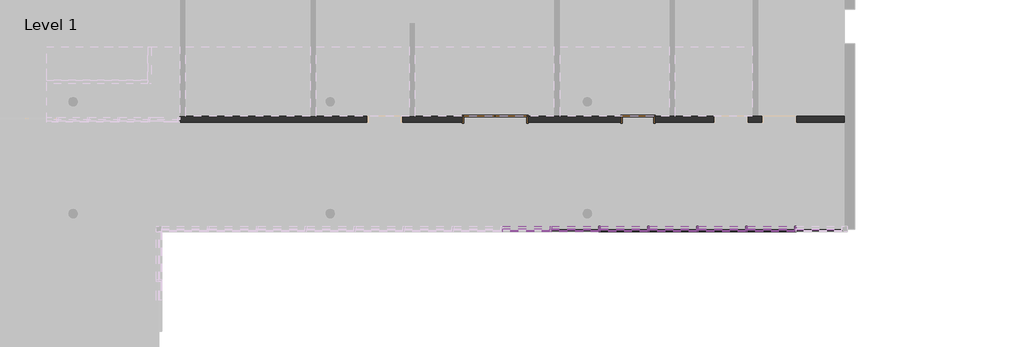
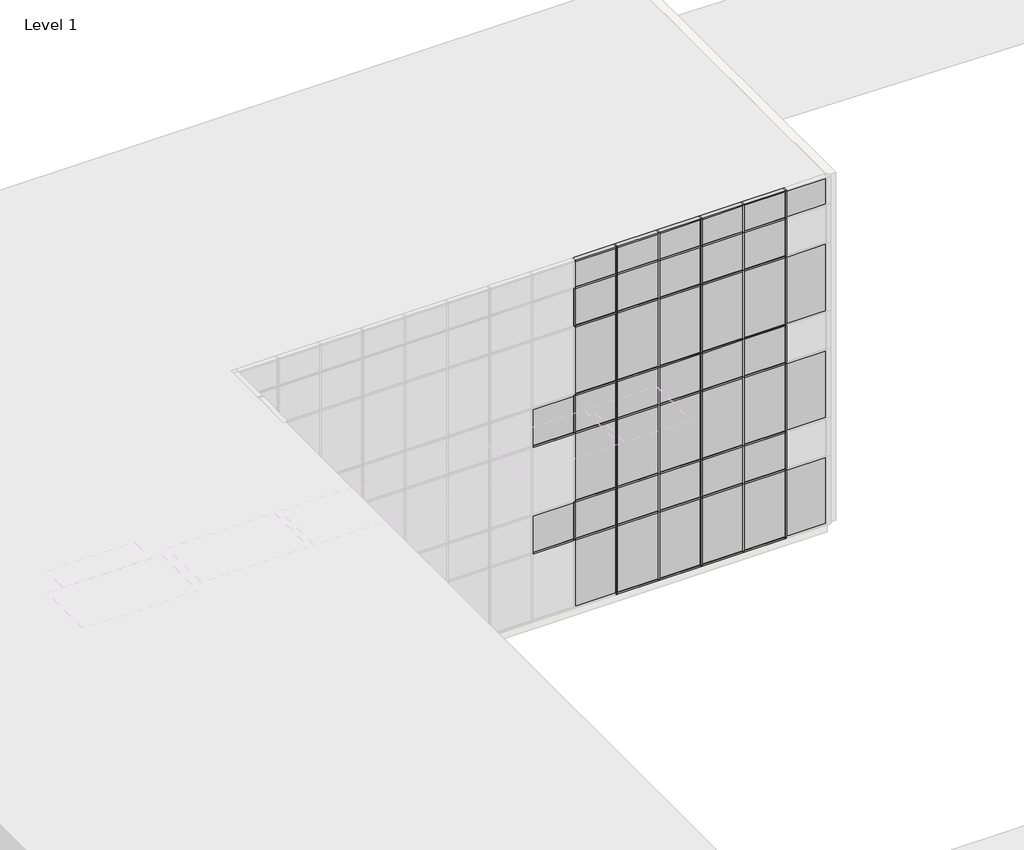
# One storey, part 16 of 27: 79 members, 41 plates, 2 doors, 1 wall.
"""IFC4 building model written with IfcOpenShell, lengths in millimetres."""

from ifc_helpers import new_model, si_unit, origin, place, context, project, spatial, faceted_brep, transform, mapped, element, save
from components import door_0915mm_x_2134mm_3fa07aa3, door_2_x_0915mm_x_2134mm_c74f849d, rectangular_mullion_50mm_x_150mm_5a36e067, rectangular_mullion_50mm_x_150mm_73e7bd4c, rectangular_mullion_50mm_x_150mm_bbc1c4ea, rectangular_mullion_50mm_x_150mm_36202a7c, rectangular_mullion_50mm_x_150mm_84717ec5, system_panel_glazed_6032f2be, system_panel_glazed_0db3b356, system_panel_glazed_cd6fe77c, system_panel_glazed_231014a1, system_panel_solid_c5c66014, system_panel_solid_87c6c2f1, system_panel_solid_e0f9033a

model = new_model("IFC4")

# Units and contexts
model_context = context("Model", 3, world=origin())
ifc_project = project(units=[si_unit("LENGTHUNIT", "METRE", prefix="MILLI")], contexts=[model_context])

# Site, building, storey
site = spatial("IfcSite", under=ifc_project)
building = spatial("IfcBuilding", under=site)
storey = spatial("IfcBuildingStorey", under=building, Name="Level 1", Elevation=0.0)

# Doors
placement = place(None, origin())
door_0915mm_x_2134mm_shape = door_0915mm_x_2134mm_3fa07aa3(model_context)
element("IfcDoor", 1, ObjectType="m-doors-hm-f1-a : 0915mm x 2134mm", at=placement, inside=storey, context=model_context, shape_type="MappedRepresentation", body=[
    mapped(door_0915mm_x_2134mm_shape, transform((21398.8999097, 22787.5799804, 0.0), x_axis=(-1.0, 0.0, 0.0), y_axis=(0.0, -1.0, 0.0), z_axis=(0.0, 0.0, 1.0))),
])
door_2_x_0915mm_x_2134mm_shape = door_2_x_0915mm_x_2134mm_c74f849d(model_context)
element("IfcDoor", 2, ObjectType="m-doors-hm-f2-a : 2 x 0915mm x 2134mm", at=placement, inside=storey, context=model_context, shape_type="MappedRepresentation", body=[
    mapped(door_2_x_0915mm_x_2134mm_shape, transform((17239.5010724, 22787.5799804, 0.0), x_axis=(1.0, 0.0, 0.0), y_axis=(0.0, 1.0, 0.0), z_axis=(0.0, 0.0, 1.0))),
])

# Members
rectangular_mullion_50mm_x_150mm_shape = rectangular_mullion_50mm_x_150mm_5a36e067(model_context)
element("IfcMember", 3, ObjectType="Rectangular Mullion : 50mm x 150mm", at=placement, inside=storey, context=model_context, shape_type="MappedRepresentation", body=[
    mapped(rectangular_mullion_50mm_x_150mm_shape, transform((20256.7574677, 19414.8392059, 12400.0), x_axis=(0.0, 0.0, 1.0), y_axis=(0.0, -1.0, 0.0), z_axis=(1.0, 0.0, 0.0))),
])
element("IfcMember", 4, ObjectType="Rectangular Mullion : 50mm x 150mm", at=placement, inside=storey, context=model_context, shape_type="MappedRepresentation", body=[
    mapped(rectangular_mullion_50mm_x_150mm_shape, transform((21682.785956, 19414.8392059, 12400.0), x_axis=(0.0, 0.0, 1.0), y_axis=(0.0, -1.0, 0.0), z_axis=(1.0, 0.0, 0.0))),
])
element("IfcMember", 5, ObjectType="Rectangular Mullion : 50mm x 150mm", at=placement, inside=storey, context=model_context, shape_type="MappedRepresentation", body=[
    mapped(rectangular_mullion_50mm_x_150mm_shape, transform((23108.8144443, 19414.8392059, 12400.0), x_axis=(0.0, 0.0, 1.0), y_axis=(0.0, -1.0, 0.0), z_axis=(1.0, 0.0, 0.0))),
])
element("IfcMember", 6, ObjectType="Rectangular Mullion : 50mm x 150mm", at=placement, inside=storey, context=model_context, shape_type="MappedRepresentation", body=[
    mapped(rectangular_mullion_50mm_x_150mm_shape, transform((24534.8429327, 19414.8392059, 12400.0), x_axis=(0.0, 0.0, 1.0), y_axis=(0.0, -1.0, 0.0), z_axis=(1.0, 0.0, 0.0))),
])
element("IfcMember", 7, ObjectType="Rectangular Mullion : 50mm x 150mm", at=placement, inside=storey, context=model_context, shape_type="MappedRepresentation", body=[
    mapped(rectangular_mullion_50mm_x_150mm_shape, transform((25960.871421, 19414.8392059, 12400.0), x_axis=(0.0, 0.0, 1.0), y_axis=(0.0, -1.0, 0.0), z_axis=(1.0, 0.0, 0.0))),
])
element("IfcMember", 8, ObjectType="Rectangular Mullion : 50mm x 150mm", at=placement, inside=storey, context=model_context, shape_type="MappedRepresentation", body=[
    mapped(rectangular_mullion_50mm_x_150mm_shape, transform((20306.7574677, 19414.8392059, 0.0), x_axis=(0.0, 0.0, -1.0), y_axis=(0.0, -1.0, 0.0), z_axis=(-1.0, 0.0, 0.0))),
])
element("IfcMember", 9, ObjectType="Rectangular Mullion : 50mm x 150mm", at=placement, inside=storey, context=model_context, shape_type="MappedRepresentation", body=[
    mapped(rectangular_mullion_50mm_x_150mm_shape, transform((21732.785956, 19414.8392059, 0.0), x_axis=(0.0, 0.0, -1.0), y_axis=(0.0, -1.0, 0.0), z_axis=(-1.0, 0.0, 0.0))),
])
element("IfcMember", 10, ObjectType="Rectangular Mullion : 50mm x 150mm", at=placement, inside=storey, context=model_context, shape_type="MappedRepresentation", body=[
    mapped(rectangular_mullion_50mm_x_150mm_shape, transform((23158.8144443, 19414.8392059, 0.0), x_axis=(0.0, 0.0, -1.0), y_axis=(0.0, -1.0, 0.0), z_axis=(-1.0, 0.0, 0.0))),
])
element("IfcMember", 11, ObjectType="Rectangular Mullion : 50mm x 150mm", at=placement, inside=storey, context=model_context, shape_type="MappedRepresentation", body=[
    mapped(rectangular_mullion_50mm_x_150mm_shape, transform((24584.8429327, 19414.8392059, 0.0), x_axis=(0.0, 0.0, -1.0), y_axis=(0.0, -1.0, 0.0), z_axis=(-1.0, 0.0, 0.0))),
])
rectangular_mullion_50mm_x_150mm_2_shape = rectangular_mullion_50mm_x_150mm_73e7bd4c(model_context)
element("IfcMember", 12, ObjectType="Rectangular Mullion : 50mm x 150mm", at=placement, inside=storey, context=model_context, shape_type="MappedRepresentation", body=[
    mapped(rectangular_mullion_50mm_x_150mm_2_shape, transform((20256.7574677, 19414.8392059, 3800.0), x_axis=(0.0, 0.0, 1.0), y_axis=(0.0, -1.0, 0.0), z_axis=(1.0, 0.0, 0.0))),
])
element("IfcMember", 13, ObjectType="Rectangular Mullion : 50mm x 150mm", at=placement, inside=storey, context=model_context, shape_type="MappedRepresentation", body=[
    mapped(rectangular_mullion_50mm_x_150mm_2_shape, transform((21682.785956, 19414.8392059, 3800.0), x_axis=(0.0, 0.0, 1.0), y_axis=(0.0, -1.0, 0.0), z_axis=(1.0, 0.0, 0.0))),
])
element("IfcMember", 14, ObjectType="Rectangular Mullion : 50mm x 150mm", at=placement, inside=storey, context=model_context, shape_type="MappedRepresentation", body=[
    mapped(rectangular_mullion_50mm_x_150mm_2_shape, transform((23108.8144443, 19414.8392059, 3800.0), x_axis=(0.0, 0.0, 1.0), y_axis=(0.0, -1.0, 0.0), z_axis=(1.0, 0.0, 0.0))),
])
element("IfcMember", 15, ObjectType="Rectangular Mullion : 50mm x 150mm", at=placement, inside=storey, context=model_context, shape_type="MappedRepresentation", body=[
    mapped(rectangular_mullion_50mm_x_150mm_2_shape, transform((24534.8429327, 19414.8392059, 3800.0), x_axis=(0.0, 0.0, 1.0), y_axis=(0.0, -1.0, 0.0), z_axis=(1.0, 0.0, 0.0))),
])
element("IfcMember", 16, ObjectType="Rectangular Mullion : 50mm x 150mm", at=placement, inside=storey, context=model_context, shape_type="MappedRepresentation", body=[
    mapped(rectangular_mullion_50mm_x_150mm_2_shape, transform((25960.871421, 19414.8392059, 3800.0), x_axis=(0.0, 0.0, 1.0), y_axis=(0.0, -1.0, 0.0), z_axis=(1.0, 0.0, 0.0))),
])
element("IfcMember", 17, ObjectType="Rectangular Mullion : 50mm x 150mm", at=placement, inside=storey, context=model_context, shape_type="MappedRepresentation", body=[
    mapped(rectangular_mullion_50mm_x_150mm_2_shape, transform((20256.7574677, 19414.8392059, 7600.0), x_axis=(0.0, 0.0, 1.0), y_axis=(0.0, -1.0, 0.0), z_axis=(1.0, 0.0, 0.0))),
])
element("IfcMember", 18, ObjectType="Rectangular Mullion : 50mm x 150mm", at=placement, inside=storey, context=model_context, shape_type="MappedRepresentation", body=[
    mapped(rectangular_mullion_50mm_x_150mm_2_shape, transform((21682.785956, 19414.8392059, 7600.0), x_axis=(0.0, 0.0, 1.0), y_axis=(0.0, -1.0, 0.0), z_axis=(1.0, 0.0, 0.0))),
])
element("IfcMember", 19, ObjectType="Rectangular Mullion : 50mm x 150mm", at=placement, inside=storey, context=model_context, shape_type="MappedRepresentation", body=[
    mapped(rectangular_mullion_50mm_x_150mm_2_shape, transform((23108.8144443, 19414.8392059, 7600.0), x_axis=(0.0, 0.0, 1.0), y_axis=(0.0, -1.0, 0.0), z_axis=(1.0, 0.0, 0.0))),
])
element("IfcMember", 20, ObjectType="Rectangular Mullion : 50mm x 150mm", at=placement, inside=storey, context=model_context, shape_type="MappedRepresentation", body=[
    mapped(rectangular_mullion_50mm_x_150mm_2_shape, transform((24534.8429327, 19414.8392059, 7600.0), x_axis=(0.0, 0.0, 1.0), y_axis=(0.0, -1.0, 0.0), z_axis=(1.0, 0.0, 0.0))),
])
element("IfcMember", 21, ObjectType="Rectangular Mullion : 50mm x 150mm", at=placement, inside=storey, context=model_context, shape_type="MappedRepresentation", body=[
    mapped(rectangular_mullion_50mm_x_150mm_2_shape, transform((25960.871421, 19414.8392059, 7600.0), x_axis=(0.0, 0.0, 1.0), y_axis=(0.0, -1.0, 0.0), z_axis=(1.0, 0.0, 0.0))),
])
element("IfcMember", 22, ObjectType="Rectangular Mullion : 50mm x 150mm", at=placement, inside=storey, context=model_context, shape_type="MappedRepresentation", body=[
    mapped(rectangular_mullion_50mm_x_150mm_2_shape, transform((20256.7574677, 19414.8392059, 11400.0), x_axis=(0.0, 0.0, 1.0), y_axis=(0.0, -1.0, 0.0), z_axis=(1.0, 0.0, 0.0))),
])
element("IfcMember", 23, ObjectType="Rectangular Mullion : 50mm x 150mm", at=placement, inside=storey, context=model_context, shape_type="MappedRepresentation", body=[
    mapped(rectangular_mullion_50mm_x_150mm_2_shape, transform((21682.785956, 19414.8392059, 11400.0), x_axis=(0.0, 0.0, 1.0), y_axis=(0.0, -1.0, 0.0), z_axis=(1.0, 0.0, 0.0))),
])
element("IfcMember", 24, ObjectType="Rectangular Mullion : 50mm x 150mm", at=placement, inside=storey, context=model_context, shape_type="MappedRepresentation", body=[
    mapped(rectangular_mullion_50mm_x_150mm_2_shape, transform((23108.8144443, 19414.8392059, 11400.0), x_axis=(0.0, 0.0, 1.0), y_axis=(0.0, -1.0, 0.0), z_axis=(1.0, 0.0, 0.0))),
])
element("IfcMember", 25, ObjectType="Rectangular Mullion : 50mm x 150mm", at=placement, inside=storey, context=model_context, shape_type="MappedRepresentation", body=[
    mapped(rectangular_mullion_50mm_x_150mm_2_shape, transform((24534.8429327, 19414.8392059, 11400.0), x_axis=(0.0, 0.0, 1.0), y_axis=(0.0, -1.0, 0.0), z_axis=(1.0, 0.0, 0.0))),
])
element("IfcMember", 26, ObjectType="Rectangular Mullion : 50mm x 150mm", at=placement, inside=storey, context=model_context, shape_type="MappedRepresentation", body=[
    mapped(rectangular_mullion_50mm_x_150mm_2_shape, transform((25960.871421, 19414.8392059, 11400.0), x_axis=(0.0, 0.0, 1.0), y_axis=(0.0, -1.0, 0.0), z_axis=(1.0, 0.0, 0.0))),
])
element("IfcMember", 27, ObjectType="Rectangular Mullion : 50mm x 150mm", at=placement, inside=storey, context=model_context, shape_type="MappedRepresentation", body=[
    mapped(rectangular_mullion_50mm_x_150mm_2_shape, transform((20256.7574677, 19414.8392059, 10040.0), x_axis=(0.0, 0.0, 1.0), y_axis=(0.0, -1.0, 0.0), z_axis=(1.0, 0.0, 0.0))),
])
element("IfcMember", 28, ObjectType="Rectangular Mullion : 50mm x 150mm", at=placement, inside=storey, context=model_context, shape_type="MappedRepresentation", body=[
    mapped(rectangular_mullion_50mm_x_150mm_2_shape, transform((21682.785956, 19414.8392059, 10040.0), x_axis=(0.0, 0.0, 1.0), y_axis=(0.0, -1.0, 0.0), z_axis=(1.0, 0.0, 0.0))),
])
element("IfcMember", 29, ObjectType="Rectangular Mullion : 50mm x 150mm", at=placement, inside=storey, context=model_context, shape_type="MappedRepresentation", body=[
    mapped(rectangular_mullion_50mm_x_150mm_2_shape, transform((23108.8144443, 19414.8392059, 10040.0), x_axis=(0.0, 0.0, 1.0), y_axis=(0.0, -1.0, 0.0), z_axis=(1.0, 0.0, 0.0))),
])
element("IfcMember", 30, ObjectType="Rectangular Mullion : 50mm x 150mm", at=placement, inside=storey, context=model_context, shape_type="MappedRepresentation", body=[
    mapped(rectangular_mullion_50mm_x_150mm_2_shape, transform((24534.8429327, 19414.8392059, 10040.0), x_axis=(0.0, 0.0, 1.0), y_axis=(0.0, -1.0, 0.0), z_axis=(1.0, 0.0, 0.0))),
])
element("IfcMember", 31, ObjectType="Rectangular Mullion : 50mm x 150mm", at=placement, inside=storey, context=model_context, shape_type="MappedRepresentation", body=[
    mapped(rectangular_mullion_50mm_x_150mm_2_shape, transform((25960.871421, 19414.8392059, 10040.0), x_axis=(0.0, 0.0, 1.0), y_axis=(0.0, -1.0, 0.0), z_axis=(1.0, 0.0, 0.0))),
])
element("IfcMember", 32, ObjectType="Rectangular Mullion : 50mm x 150mm", at=placement, inside=storey, context=model_context, shape_type="MappedRepresentation", body=[
    mapped(rectangular_mullion_50mm_x_150mm_2_shape, transform((18830.7289793, 19414.8392059, 6240.0), x_axis=(0.0, 0.0, 1.0), y_axis=(0.0, -1.0, 0.0), z_axis=(1.0, 0.0, 0.0))),
])
element("IfcMember", 33, ObjectType="Rectangular Mullion : 50mm x 150mm", at=placement, inside=storey, context=model_context, shape_type="MappedRepresentation", body=[
    mapped(rectangular_mullion_50mm_x_150mm_2_shape, transform((20256.7574677, 19414.8392059, 6240.0), x_axis=(0.0, 0.0, 1.0), y_axis=(0.0, -1.0, 0.0), z_axis=(1.0, 0.0, 0.0))),
])
element("IfcMember", 34, ObjectType="Rectangular Mullion : 50mm x 150mm", at=placement, inside=storey, context=model_context, shape_type="MappedRepresentation", body=[
    mapped(rectangular_mullion_50mm_x_150mm_2_shape, transform((21682.785956, 19414.8392059, 6240.0), x_axis=(0.0, 0.0, 1.0), y_axis=(0.0, -1.0, 0.0), z_axis=(1.0, 0.0, 0.0))),
])
element("IfcMember", 35, ObjectType="Rectangular Mullion : 50mm x 150mm", at=placement, inside=storey, context=model_context, shape_type="MappedRepresentation", body=[
    mapped(rectangular_mullion_50mm_x_150mm_2_shape, transform((23108.8144443, 19414.8392059, 6240.0), x_axis=(0.0, 0.0, 1.0), y_axis=(0.0, -1.0, 0.0), z_axis=(1.0, 0.0, 0.0))),
])
element("IfcMember", 36, ObjectType="Rectangular Mullion : 50mm x 150mm", at=placement, inside=storey, context=model_context, shape_type="MappedRepresentation", body=[
    mapped(rectangular_mullion_50mm_x_150mm_2_shape, transform((24534.8429327, 19414.8392059, 6240.0), x_axis=(0.0, 0.0, 1.0), y_axis=(0.0, -1.0, 0.0), z_axis=(1.0, 0.0, 0.0))),
])
element("IfcMember", 37, ObjectType="Rectangular Mullion : 50mm x 150mm", at=placement, inside=storey, context=model_context, shape_type="MappedRepresentation", body=[
    mapped(rectangular_mullion_50mm_x_150mm_2_shape, transform((25960.871421, 19414.8392059, 6240.0), x_axis=(0.0, 0.0, 1.0), y_axis=(0.0, -1.0, 0.0), z_axis=(1.0, 0.0, 0.0))),
])
element("IfcMember", 38, ObjectType="Rectangular Mullion : 50mm x 150mm", at=placement, inside=storey, context=model_context, shape_type="MappedRepresentation", body=[
    mapped(rectangular_mullion_50mm_x_150mm_2_shape, transform((18830.7289793, 19414.8392059, 2440.0), x_axis=(0.0, 0.0, 1.0), y_axis=(0.0, -1.0, 0.0), z_axis=(1.0, 0.0, 0.0))),
])
element("IfcMember", 39, ObjectType="Rectangular Mullion : 50mm x 150mm", at=placement, inside=storey, context=model_context, shape_type="MappedRepresentation", body=[
    mapped(rectangular_mullion_50mm_x_150mm_2_shape, transform((20256.7574677, 19414.8392059, 2440.0), x_axis=(0.0, 0.0, 1.0), y_axis=(0.0, -1.0, 0.0), z_axis=(1.0, 0.0, 0.0))),
])
element("IfcMember", 40, ObjectType="Rectangular Mullion : 50mm x 150mm", at=placement, inside=storey, context=model_context, shape_type="MappedRepresentation", body=[
    mapped(rectangular_mullion_50mm_x_150mm_2_shape, transform((21682.785956, 19414.8392059, 2440.0), x_axis=(0.0, 0.0, 1.0), y_axis=(0.0, -1.0, 0.0), z_axis=(1.0, 0.0, 0.0))),
])
element("IfcMember", 41, ObjectType="Rectangular Mullion : 50mm x 150mm", at=placement, inside=storey, context=model_context, shape_type="MappedRepresentation", body=[
    mapped(rectangular_mullion_50mm_x_150mm_2_shape, transform((23108.8144443, 19414.8392059, 2440.0), x_axis=(0.0, 0.0, 1.0), y_axis=(0.0, -1.0, 0.0), z_axis=(1.0, 0.0, 0.0))),
])
element("IfcMember", 42, ObjectType="Rectangular Mullion : 50mm x 150mm", at=placement, inside=storey, context=model_context, shape_type="MappedRepresentation", body=[
    mapped(rectangular_mullion_50mm_x_150mm_2_shape, transform((24534.8429327, 19414.8392059, 2440.0), x_axis=(0.0, 0.0, 1.0), y_axis=(0.0, -1.0, 0.0), z_axis=(1.0, 0.0, 0.0))),
])
element("IfcMember", 43, ObjectType="Rectangular Mullion : 50mm x 150mm", at=placement, inside=storey, context=model_context, shape_type="MappedRepresentation", body=[
    mapped(rectangular_mullion_50mm_x_150mm_2_shape, transform((25960.871421, 19414.8392059, 2440.0), x_axis=(0.0, 0.0, 1.0), y_axis=(0.0, -1.0, 0.0), z_axis=(1.0, 0.0, 0.0))),
])
rectangular_mullion_50mm_x_150mm_3_shape = rectangular_mullion_50mm_x_150mm_bbc1c4ea(model_context)
element("IfcMember", 44, ObjectType="Rectangular Mullion : 50mm x 150mm", at=placement, inside=storey, context=model_context, shape_type="MappedRepresentation", body=[
    mapped(rectangular_mullion_50mm_x_150mm_3_shape, transform((20281.7574677, 19414.8392059, 11400.0), x_axis=(1.0, 0.0, 0.0), y_axis=(0.0, -1.0, 0.0), z_axis=(0.0, 0.0, -1.0))),
])
element("IfcMember", 45, ObjectType="Rectangular Mullion : 50mm x 150mm", at=placement, inside=storey, context=model_context, shape_type="MappedRepresentation", body=[
    mapped(rectangular_mullion_50mm_x_150mm_3_shape, transform((21707.785956, 19414.8392059, 11400.0), x_axis=(1.0, 0.0, 0.0), y_axis=(0.0, -1.0, 0.0), z_axis=(0.0, 0.0, -1.0))),
])
element("IfcMember", 46, ObjectType="Rectangular Mullion : 50mm x 150mm", at=placement, inside=storey, context=model_context, shape_type="MappedRepresentation", body=[
    mapped(rectangular_mullion_50mm_x_150mm_3_shape, transform((23133.8144443, 19414.8392059, 11400.0), x_axis=(1.0, 0.0, 0.0), y_axis=(0.0, -1.0, 0.0), z_axis=(0.0, 0.0, -1.0))),
])
element("IfcMember", 47, ObjectType="Rectangular Mullion : 50mm x 150mm", at=placement, inside=storey, context=model_context, shape_type="MappedRepresentation", body=[
    mapped(rectangular_mullion_50mm_x_150mm_3_shape, transform((24559.8429327, 19414.8392059, 11400.0), x_axis=(1.0, 0.0, 0.0), y_axis=(0.0, -1.0, 0.0), z_axis=(0.0, 0.0, -1.0))),
])
element("IfcMember", 48, ObjectType="Rectangular Mullion : 50mm x 150mm", at=placement, inside=storey, context=model_context, shape_type="MappedRepresentation", body=[
    mapped(rectangular_mullion_50mm_x_150mm_3_shape, transform((25985.871421, 19414.8392059, 11400.0), x_axis=(1.0, 0.0, 0.0), y_axis=(0.0, -1.0, 0.0), z_axis=(0.0, 0.0, -1.0))),
])
rectangular_mullion_50mm_x_150mm_4_shape = rectangular_mullion_50mm_x_150mm_36202a7c(model_context)
element("IfcMember", 49, ObjectType="Rectangular Mullion : 50mm x 150mm", at=placement, inside=storey, context=model_context, shape_type="MappedRepresentation", body=[
    mapped(rectangular_mullion_50mm_x_150mm_4_shape, transform((20281.7574677, 19414.8392059, 0.0), x_axis=(1.0, 0.0, 0.0), y_axis=(0.0, -1.0, 0.0), z_axis=(0.0, 0.0, -1.0))),
])
element("IfcMember", 50, ObjectType="Rectangular Mullion : 50mm x 150mm", at=placement, inside=storey, context=model_context, shape_type="MappedRepresentation", body=[
    mapped(rectangular_mullion_50mm_x_150mm_4_shape, transform((21707.785956, 19414.8392059, 0.0), x_axis=(1.0, 0.0, 0.0), y_axis=(0.0, -1.0, 0.0), z_axis=(0.0, 0.0, -1.0))),
])
element("IfcMember", 51, ObjectType="Rectangular Mullion : 50mm x 150mm", at=placement, inside=storey, context=model_context, shape_type="MappedRepresentation", body=[
    mapped(rectangular_mullion_50mm_x_150mm_4_shape, transform((23133.8144443, 19414.8392059, 0.0), x_axis=(1.0, 0.0, 0.0), y_axis=(0.0, -1.0, 0.0), z_axis=(0.0, 0.0, -1.0))),
])
element("IfcMember", 52, ObjectType="Rectangular Mullion : 50mm x 150mm", at=placement, inside=storey, context=model_context, shape_type="MappedRepresentation", body=[
    mapped(rectangular_mullion_50mm_x_150mm_4_shape, transform((24559.8429327, 19414.8392059, 0.0), x_axis=(1.0, 0.0, 0.0), y_axis=(0.0, -1.0, 0.0), z_axis=(0.0, 0.0, -1.0))),
])
element("IfcMember", 53, ObjectType="Rectangular Mullion : 50mm x 150mm", at=placement, inside=storey, context=model_context, shape_type="MappedRepresentation", body=[
    mapped(rectangular_mullion_50mm_x_150mm_4_shape, transform((25985.871421, 19414.8392059, 0.0), x_axis=(1.0, 0.0, 0.0), y_axis=(0.0, -1.0, 0.0), z_axis=(0.0, 0.0, -1.0))),
])
rectangular_mullion_50mm_x_150mm_5_shape = rectangular_mullion_50mm_x_150mm_84717ec5(model_context)
element("IfcMember", 54, ObjectType="Rectangular Mullion : 50mm x 150mm", at=placement, inside=storey, context=model_context, shape_type="MappedRepresentation", body=[
    mapped(rectangular_mullion_50mm_x_150mm_5_shape, transform((18855.7289793, 19414.8392059, 10040.0), x_axis=(1.0, 0.0, 0.0), y_axis=(0.0, -1.0, 0.0), z_axis=(0.0, 0.0, -1.0))),
])
element("IfcMember", 55, ObjectType="Rectangular Mullion : 50mm x 150mm", at=placement, inside=storey, context=model_context, shape_type="MappedRepresentation", body=[
    mapped(rectangular_mullion_50mm_x_150mm_5_shape, transform((20281.7574677, 19414.8392059, 10040.0), x_axis=(1.0, 0.0, 0.0), y_axis=(0.0, -1.0, 0.0), z_axis=(0.0, 0.0, -1.0))),
])
element("IfcMember", 56, ObjectType="Rectangular Mullion : 50mm x 150mm", at=placement, inside=storey, context=model_context, shape_type="MappedRepresentation", body=[
    mapped(rectangular_mullion_50mm_x_150mm_5_shape, transform((21707.785956, 19414.8392059, 10040.0), x_axis=(1.0, 0.0, 0.0), y_axis=(0.0, -1.0, 0.0), z_axis=(0.0, 0.0, -1.0))),
])
element("IfcMember", 57, ObjectType="Rectangular Mullion : 50mm x 150mm", at=placement, inside=storey, context=model_context, shape_type="MappedRepresentation", body=[
    mapped(rectangular_mullion_50mm_x_150mm_5_shape, transform((23133.8144443, 19414.8392059, 10040.0), x_axis=(1.0, 0.0, 0.0), y_axis=(0.0, -1.0, 0.0), z_axis=(0.0, 0.0, -1.0))),
])
element("IfcMember", 58, ObjectType="Rectangular Mullion : 50mm x 150mm", at=placement, inside=storey, context=model_context, shape_type="MappedRepresentation", body=[
    mapped(rectangular_mullion_50mm_x_150mm_5_shape, transform((24559.8429327, 19414.8392059, 10040.0), x_axis=(1.0, 0.0, 0.0), y_axis=(0.0, -1.0, 0.0), z_axis=(0.0, 0.0, -1.0))),
])
element("IfcMember", 59, ObjectType="Rectangular Mullion : 50mm x 150mm", at=placement, inside=storey, context=model_context, shape_type="MappedRepresentation", body=[
    mapped(rectangular_mullion_50mm_x_150mm_5_shape, transform((25985.871421, 19414.8392059, 10040.0), x_axis=(1.0, 0.0, 0.0), y_axis=(0.0, -1.0, 0.0), z_axis=(0.0, 0.0, -1.0))),
])
element("IfcMember", 60, ObjectType="Rectangular Mullion : 50mm x 150mm", at=placement, inside=storey, context=model_context, shape_type="MappedRepresentation", body=[
    mapped(rectangular_mullion_50mm_x_150mm_5_shape, transform((18855.7289793, 19414.8392059, 6240.0), x_axis=(1.0, 0.0, 0.0), y_axis=(0.0, -1.0, 0.0), z_axis=(0.0, 0.0, -1.0))),
])
element("IfcMember", 61, ObjectType="Rectangular Mullion : 50mm x 150mm", at=placement, inside=storey, context=model_context, shape_type="MappedRepresentation", body=[
    mapped(rectangular_mullion_50mm_x_150mm_5_shape, transform((20281.7574677, 19414.8392059, 6240.0), x_axis=(1.0, 0.0, 0.0), y_axis=(0.0, -1.0, 0.0), z_axis=(0.0, 0.0, -1.0))),
])
element("IfcMember", 62, ObjectType="Rectangular Mullion : 50mm x 150mm", at=placement, inside=storey, context=model_context, shape_type="MappedRepresentation", body=[
    mapped(rectangular_mullion_50mm_x_150mm_5_shape, transform((21707.785956, 19414.8392059, 6240.0), x_axis=(1.0, 0.0, 0.0), y_axis=(0.0, -1.0, 0.0), z_axis=(0.0, 0.0, -1.0))),
])
element("IfcMember", 63, ObjectType="Rectangular Mullion : 50mm x 150mm", at=placement, inside=storey, context=model_context, shape_type="MappedRepresentation", body=[
    mapped(rectangular_mullion_50mm_x_150mm_5_shape, transform((23133.8144443, 19414.8392059, 6240.0), x_axis=(1.0, 0.0, 0.0), y_axis=(0.0, -1.0, 0.0), z_axis=(0.0, 0.0, -1.0))),
])
element("IfcMember", 64, ObjectType="Rectangular Mullion : 50mm x 150mm", at=placement, inside=storey, context=model_context, shape_type="MappedRepresentation", body=[
    mapped(rectangular_mullion_50mm_x_150mm_5_shape, transform((24559.8429327, 19414.8392059, 6240.0), x_axis=(1.0, 0.0, 0.0), y_axis=(0.0, -1.0, 0.0), z_axis=(0.0, 0.0, -1.0))),
])
element("IfcMember", 65, ObjectType="Rectangular Mullion : 50mm x 150mm", at=placement, inside=storey, context=model_context, shape_type="MappedRepresentation", body=[
    mapped(rectangular_mullion_50mm_x_150mm_5_shape, transform((25985.871421, 19414.8392059, 6240.0), x_axis=(1.0, 0.0, 0.0), y_axis=(0.0, -1.0, 0.0), z_axis=(0.0, 0.0, -1.0))),
])
element("IfcMember", 66, ObjectType="Rectangular Mullion : 50mm x 150mm", at=placement, inside=storey, context=model_context, shape_type="MappedRepresentation", body=[
    mapped(rectangular_mullion_50mm_x_150mm_5_shape, transform((18855.7289793, 19414.8392059, 2440.0), x_axis=(1.0, 0.0, 0.0), y_axis=(0.0, -1.0, 0.0), z_axis=(0.0, 0.0, -1.0))),
])
element("IfcMember", 67, ObjectType="Rectangular Mullion : 50mm x 150mm", at=placement, inside=storey, context=model_context, shape_type="MappedRepresentation", body=[
    mapped(rectangular_mullion_50mm_x_150mm_5_shape, transform((20281.7574677, 19414.8392059, 2440.0), x_axis=(1.0, 0.0, 0.0), y_axis=(0.0, -1.0, 0.0), z_axis=(0.0, 0.0, -1.0))),
])
element("IfcMember", 68, ObjectType="Rectangular Mullion : 50mm x 150mm", at=placement, inside=storey, context=model_context, shape_type="MappedRepresentation", body=[
    mapped(rectangular_mullion_50mm_x_150mm_5_shape, transform((21707.785956, 19414.8392059, 2440.0), x_axis=(1.0, 0.0, 0.0), y_axis=(0.0, -1.0, 0.0), z_axis=(0.0, 0.0, -1.0))),
])
element("IfcMember", 69, ObjectType="Rectangular Mullion : 50mm x 150mm", at=placement, inside=storey, context=model_context, shape_type="MappedRepresentation", body=[
    mapped(rectangular_mullion_50mm_x_150mm_5_shape, transform((23133.8144443, 19414.8392059, 2440.0), x_axis=(1.0, 0.0, 0.0), y_axis=(0.0, -1.0, 0.0), z_axis=(0.0, 0.0, -1.0))),
])
element("IfcMember", 70, ObjectType="Rectangular Mullion : 50mm x 150mm", at=placement, inside=storey, context=model_context, shape_type="MappedRepresentation", body=[
    mapped(rectangular_mullion_50mm_x_150mm_5_shape, transform((24559.8429327, 19414.8392059, 2440.0), x_axis=(1.0, 0.0, 0.0), y_axis=(0.0, -1.0, 0.0), z_axis=(0.0, 0.0, -1.0))),
])
element("IfcMember", 71, ObjectType="Rectangular Mullion : 50mm x 150mm", at=placement, inside=storey, context=model_context, shape_type="MappedRepresentation", body=[
    mapped(rectangular_mullion_50mm_x_150mm_5_shape, transform((25985.871421, 19414.8392059, 2440.0), x_axis=(1.0, 0.0, 0.0), y_axis=(0.0, -1.0, 0.0), z_axis=(0.0, 0.0, -1.0))),
])
element("IfcMember", 72, ObjectType="Rectangular Mullion : 50mm x 150mm", at=placement, inside=storey, context=model_context, shape_type="MappedRepresentation", body=[
    mapped(rectangular_mullion_50mm_x_150mm_4_shape, transform((20281.7574677, 19414.8392059, 3800.0), x_axis=(1.0, 0.0, 0.0), y_axis=(0.0, -1.0, 0.0), z_axis=(0.0, 0.0, -1.0))),
])
element("IfcMember", 73, ObjectType="Rectangular Mullion : 50mm x 150mm", at=placement, inside=storey, context=model_context, shape_type="MappedRepresentation", body=[
    mapped(rectangular_mullion_50mm_x_150mm_4_shape, transform((21707.785956, 19414.8392059, 3800.0), x_axis=(1.0, 0.0, 0.0), y_axis=(0.0, -1.0, 0.0), z_axis=(0.0, 0.0, -1.0))),
])
element("IfcMember", 74, ObjectType="Rectangular Mullion : 50mm x 150mm", at=placement, inside=storey, context=model_context, shape_type="MappedRepresentation", body=[
    mapped(rectangular_mullion_50mm_x_150mm_4_shape, transform((23133.8144443, 19414.8392059, 3800.0), x_axis=(1.0, 0.0, 0.0), y_axis=(0.0, -1.0, 0.0), z_axis=(0.0, 0.0, -1.0))),
])
element("IfcMember", 75, ObjectType="Rectangular Mullion : 50mm x 150mm", at=placement, inside=storey, context=model_context, shape_type="MappedRepresentation", body=[
    mapped(rectangular_mullion_50mm_x_150mm_4_shape, transform((24559.8429327, 19414.8392059, 3800.0), x_axis=(1.0, 0.0, 0.0), y_axis=(0.0, -1.0, 0.0), z_axis=(0.0, 0.0, -1.0))),
])
element("IfcMember", 76, ObjectType="Rectangular Mullion : 50mm x 150mm", at=placement, inside=storey, context=model_context, shape_type="MappedRepresentation", body=[
    mapped(rectangular_mullion_50mm_x_150mm_4_shape, transform((25985.871421, 19414.8392059, 3800.0), x_axis=(1.0, 0.0, 0.0), y_axis=(0.0, -1.0, 0.0), z_axis=(0.0, 0.0, -1.0))),
])
element("IfcMember", 77, ObjectType="Rectangular Mullion : 50mm x 150mm", at=placement, inside=storey, context=model_context, shape_type="MappedRepresentation", body=[
    mapped(rectangular_mullion_50mm_x_150mm_4_shape, transform((20281.7574677, 19414.8392059, 7600.0), x_axis=(1.0, 0.0, 0.0), y_axis=(0.0, -1.0, 0.0), z_axis=(0.0, 0.0, -1.0))),
])
element("IfcMember", 78, ObjectType="Rectangular Mullion : 50mm x 150mm", at=placement, inside=storey, context=model_context, shape_type="MappedRepresentation", body=[
    mapped(rectangular_mullion_50mm_x_150mm_4_shape, transform((21707.785956, 19414.8392059, 7600.0), x_axis=(1.0, 0.0, 0.0), y_axis=(0.0, -1.0, 0.0), z_axis=(0.0, 0.0, -1.0))),
])
element("IfcMember", 79, ObjectType="Rectangular Mullion : 50mm x 150mm", at=placement, inside=storey, context=model_context, shape_type="MappedRepresentation", body=[
    mapped(rectangular_mullion_50mm_x_150mm_4_shape, transform((23133.8144443, 19414.8392059, 7600.0), x_axis=(1.0, 0.0, 0.0), y_axis=(0.0, -1.0, 0.0), z_axis=(0.0, 0.0, -1.0))),
])
element("IfcMember", 80, ObjectType="Rectangular Mullion : 50mm x 150mm", at=placement, inside=storey, context=model_context, shape_type="MappedRepresentation", body=[
    mapped(rectangular_mullion_50mm_x_150mm_4_shape, transform((24559.8429327, 19414.8392059, 7600.0), x_axis=(1.0, 0.0, 0.0), y_axis=(0.0, -1.0, 0.0), z_axis=(0.0, 0.0, -1.0))),
])
element("IfcMember", 81, ObjectType="Rectangular Mullion : 50mm x 150mm", at=placement, inside=storey, context=model_context, shape_type="MappedRepresentation", body=[
    mapped(rectangular_mullion_50mm_x_150mm_4_shape, transform((25985.871421, 19414.8392059, 7600.0), x_axis=(1.0, 0.0, 0.0), y_axis=(0.0, -1.0, 0.0), z_axis=(0.0, 0.0, -1.0))),
])

# Plates
system_panel_glazed_shape = system_panel_glazed_6032f2be(model_context)
element("IfcPlate", 82, ObjectType="System Panel : Glazed", at=placement, inside=storey, context=model_context, shape_type="MappedRepresentation", body=[
    mapped(system_panel_glazed_shape, transform((19568.7432235, 19414.8392059, 3825.0), x_axis=(1.0, 0.0, 0.0), y_axis=(0.0, 1.0, 0.0), z_axis=(0.0, 0.0, 1.0))),
])
element("IfcPlate", 83, ObjectType="System Panel : Glazed", at=placement, inside=storey, context=model_context, shape_type="MappedRepresentation", body=[
    mapped(system_panel_glazed_shape, transform((20994.7717118, 19414.8392059, 3825.0), x_axis=(1.0, 0.0, 0.0), y_axis=(0.0, 1.0, 0.0), z_axis=(0.0, 0.0, 1.0))),
])
element("IfcPlate", 84, ObjectType="System Panel : Glazed", at=placement, inside=storey, context=model_context, shape_type="MappedRepresentation", body=[
    mapped(system_panel_glazed_shape, transform((22420.8002002, 19414.8392059, 3825.0), x_axis=(1.0, 0.0, 0.0), y_axis=(0.0, 1.0, 0.0), z_axis=(0.0, 0.0, 1.0))),
])
element("IfcPlate", 85, ObjectType="System Panel : Glazed", at=placement, inside=storey, context=model_context, shape_type="MappedRepresentation", body=[
    mapped(system_panel_glazed_shape, transform((23846.8286885, 19414.8392059, 3825.0), x_axis=(1.0, 0.0, 0.0), y_axis=(0.0, 1.0, 0.0), z_axis=(0.0, 0.0, 1.0))),
])
element("IfcPlate", 86, ObjectType="System Panel : Glazed", at=placement, inside=storey, context=model_context, shape_type="MappedRepresentation", body=[
    mapped(system_panel_glazed_shape, transform((25272.8571768, 19414.8392059, 3825.0), x_axis=(1.0, 0.0, 0.0), y_axis=(0.0, 1.0, 0.0), z_axis=(0.0, 0.0, 1.0))),
])
element("IfcPlate", 87, ObjectType="System Panel : Glazed", at=placement, inside=storey, context=model_context, shape_type="MappedRepresentation", body=[
    mapped(system_panel_glazed_shape, transform((19568.7432235, 19414.8392059, 7625.0), x_axis=(1.0, 0.0, 0.0), y_axis=(0.0, 1.0, 0.0), z_axis=(0.0, 0.0, 1.0))),
])
element("IfcPlate", 88, ObjectType="System Panel : Glazed", at=placement, inside=storey, context=model_context, shape_type="MappedRepresentation", body=[
    mapped(system_panel_glazed_shape, transform((20994.7717118, 19414.8392059, 7625.0), x_axis=(1.0, 0.0, 0.0), y_axis=(0.0, 1.0, 0.0), z_axis=(0.0, 0.0, 1.0))),
])
element("IfcPlate", 89, ObjectType="System Panel : Glazed", at=placement, inside=storey, context=model_context, shape_type="MappedRepresentation", body=[
    mapped(system_panel_glazed_shape, transform((22420.8002002, 19414.8392059, 7625.0), x_axis=(1.0, 0.0, 0.0), y_axis=(0.0, 1.0, 0.0), z_axis=(0.0, 0.0, 1.0))),
])
element("IfcPlate", 90, ObjectType="System Panel : Glazed", at=placement, inside=storey, context=model_context, shape_type="MappedRepresentation", body=[
    mapped(system_panel_glazed_shape, transform((23846.8286885, 19414.8392059, 7625.0), x_axis=(1.0, 0.0, 0.0), y_axis=(0.0, 1.0, 0.0), z_axis=(0.0, 0.0, 1.0))),
])
element("IfcPlate", 91, ObjectType="System Panel : Glazed", at=placement, inside=storey, context=model_context, shape_type="MappedRepresentation", body=[
    mapped(system_panel_glazed_shape, transform((25272.8571768, 19414.8392059, 7625.0), x_axis=(1.0, 0.0, 0.0), y_axis=(0.0, 1.0, 0.0), z_axis=(0.0, 0.0, 1.0))),
])
system_panel_glazed_2_shape = system_panel_glazed_0db3b356(model_context)
element("IfcPlate", 92, ObjectType="System Panel : Glazed", at=placement, inside=storey, context=model_context, shape_type="MappedRepresentation", body=[
    mapped(system_panel_glazed_2_shape, transform((26673.8856653, 19414.8392059, 3825.0), x_axis=(1.0, 0.0, 0.0), y_axis=(0.0, 1.0, 0.0), z_axis=(0.0, 0.0, 1.0))),
])
element("IfcPlate", 93, ObjectType="System Panel : Glazed", at=placement, inside=storey, context=model_context, shape_type="MappedRepresentation", body=[
    mapped(system_panel_glazed_2_shape, transform((26673.8856653, 19414.8392059, 7625.0), x_axis=(1.0, 0.0, 0.0), y_axis=(0.0, 1.0, 0.0), z_axis=(0.0, 0.0, 1.0))),
])
system_panel_glazed_3_shape = system_panel_glazed_cd6fe77c(model_context)
element("IfcPlate", 94, ObjectType="System Panel : Glazed", at=placement, inside=storey, context=model_context, shape_type="MappedRepresentation", body=[
    mapped(system_panel_glazed_3_shape, transform((19568.7432235, 19414.8392059, 50.0), x_axis=(1.0, 0.0, 0.0), y_axis=(0.0, 1.0, 0.0), z_axis=(0.0, 0.0, 1.0))),
])
element("IfcPlate", 95, ObjectType="System Panel : Glazed", at=placement, inside=storey, context=model_context, shape_type="MappedRepresentation", body=[
    mapped(system_panel_glazed_3_shape, transform((20994.7717118, 19414.8392059, 50.0), x_axis=(1.0, 0.0, 0.0), y_axis=(0.0, 1.0, 0.0), z_axis=(0.0, 0.0, 1.0))),
])
element("IfcPlate", 96, ObjectType="System Panel : Glazed", at=placement, inside=storey, context=model_context, shape_type="MappedRepresentation", body=[
    mapped(system_panel_glazed_3_shape, transform((22420.8002002, 19414.8392059, 50.0), x_axis=(1.0, 0.0, 0.0), y_axis=(0.0, 1.0, 0.0), z_axis=(0.0, 0.0, 1.0))),
])
element("IfcPlate", 97, ObjectType="System Panel : Glazed", at=placement, inside=storey, context=model_context, shape_type="MappedRepresentation", body=[
    mapped(system_panel_glazed_3_shape, transform((23846.8286885, 19414.8392059, 50.0), x_axis=(1.0, 0.0, 0.0), y_axis=(0.0, 1.0, 0.0), z_axis=(0.0, 0.0, 1.0))),
])
element("IfcPlate", 98, ObjectType="System Panel : Glazed", at=placement, inside=storey, context=model_context, shape_type="MappedRepresentation", body=[
    mapped(system_panel_glazed_3_shape, transform((25272.8571768, 19414.8392059, 50.0), x_axis=(1.0, 0.0, 0.0), y_axis=(0.0, 1.0, 0.0), z_axis=(0.0, 0.0, 1.0))),
])
system_panel_glazed_4_shape = system_panel_glazed_231014a1(model_context)
element("IfcPlate", 99, ObjectType="System Panel : Glazed", at=placement, inside=storey, context=model_context, shape_type="MappedRepresentation", body=[
    mapped(system_panel_glazed_4_shape, transform((26673.8856653, 19414.8392059, 50.0), x_axis=(1.0, 0.0, 0.0), y_axis=(0.0, 1.0, 0.0), z_axis=(0.0, 0.0, 1.0))),
])
system_panel_solid_shape = system_panel_solid_c5c66014(model_context)
element("IfcPlate", 100, ObjectType="System Panel : Solid", at=placement, inside=storey, context=model_context, shape_type="MappedRepresentation", body=[
    mapped(system_panel_solid_shape, transform((26673.8856653, 19414.8392059, 11425.0), x_axis=(1.0, 0.0, 0.0), y_axis=(0.0, 1.0, 0.0), z_axis=(0.0, 0.0, 1.0))),
])
system_panel_solid_2_shape = system_panel_solid_87c6c2f1(model_context)
element("IfcPlate", 101, ObjectType="System Panel : Solid", at=placement, inside=storey, context=model_context, shape_type="MappedRepresentation", body=[
    mapped(system_panel_solid_2_shape, transform((19568.7432235, 19414.8392059, 11425.0), x_axis=(1.0, 0.0, 0.0), y_axis=(0.0, 1.0, 0.0), z_axis=(0.0, 0.0, 1.0))),
])
element("IfcPlate", 102, ObjectType="System Panel : Solid", at=placement, inside=storey, context=model_context, shape_type="MappedRepresentation", body=[
    mapped(system_panel_solid_2_shape, transform((20994.7717118, 19414.8392059, 11425.0), x_axis=(1.0, 0.0, 0.0), y_axis=(0.0, 1.0, 0.0), z_axis=(0.0, 0.0, 1.0))),
])
element("IfcPlate", 103, ObjectType="System Panel : Solid", at=placement, inside=storey, context=model_context, shape_type="MappedRepresentation", body=[
    mapped(system_panel_solid_2_shape, transform((22420.8002002, 19414.8392059, 11425.0), x_axis=(1.0, 0.0, 0.0), y_axis=(0.0, 1.0, 0.0), z_axis=(0.0, 0.0, 1.0))),
])
element("IfcPlate", 104, ObjectType="System Panel : Solid", at=placement, inside=storey, context=model_context, shape_type="MappedRepresentation", body=[
    mapped(system_panel_solid_2_shape, transform((23846.8286885, 19414.8392059, 11425.0), x_axis=(1.0, 0.0, 0.0), y_axis=(0.0, 1.0, 0.0), z_axis=(0.0, 0.0, 1.0))),
])
element("IfcPlate", 105, ObjectType="System Panel : Solid", at=placement, inside=storey, context=model_context, shape_type="MappedRepresentation", body=[
    mapped(system_panel_solid_2_shape, transform((25272.8571768, 19414.8392059, 11425.0), x_axis=(1.0, 0.0, 0.0), y_axis=(0.0, 1.0, 0.0), z_axis=(0.0, 0.0, 1.0))),
])
system_panel_solid_3_shape = system_panel_solid_e0f9033a(model_context)
element("IfcPlate", 106, ObjectType="System Panel : Solid", at=placement, inside=storey, context=model_context, shape_type="MappedRepresentation", body=[
    mapped(system_panel_solid_3_shape, transform((19568.7432235, 19414.8392059, 10065.0), x_axis=(1.0, 0.0, 0.0), y_axis=(0.0, 1.0, 0.0), z_axis=(0.0, 0.0, 1.0))),
])
element("IfcPlate", 107, ObjectType="System Panel : Solid", at=placement, inside=storey, context=model_context, shape_type="MappedRepresentation", body=[
    mapped(system_panel_solid_3_shape, transform((20994.7717118, 19414.8392059, 10065.0), x_axis=(1.0, 0.0, 0.0), y_axis=(0.0, 1.0, 0.0), z_axis=(0.0, 0.0, 1.0))),
])
element("IfcPlate", 108, ObjectType="System Panel : Solid", at=placement, inside=storey, context=model_context, shape_type="MappedRepresentation", body=[
    mapped(system_panel_solid_3_shape, transform((22420.8002002, 19414.8392059, 10065.0), x_axis=(1.0, 0.0, 0.0), y_axis=(0.0, 1.0, 0.0), z_axis=(0.0, 0.0, 1.0))),
])
element("IfcPlate", 109, ObjectType="System Panel : Solid", at=placement, inside=storey, context=model_context, shape_type="MappedRepresentation", body=[
    mapped(system_panel_solid_3_shape, transform((23846.8286885, 19414.8392059, 10065.0), x_axis=(1.0, 0.0, 0.0), y_axis=(0.0, 1.0, 0.0), z_axis=(0.0, 0.0, 1.0))),
])
element("IfcPlate", 110, ObjectType="System Panel : Solid", at=placement, inside=storey, context=model_context, shape_type="MappedRepresentation", body=[
    mapped(system_panel_solid_3_shape, transform((25272.8571768, 19414.8392059, 10065.0), x_axis=(1.0, 0.0, 0.0), y_axis=(0.0, 1.0, 0.0), z_axis=(0.0, 0.0, 1.0))),
])
element("IfcPlate", 111, ObjectType="System Panel : Solid", at=placement, inside=storey, context=model_context, shape_type="MappedRepresentation", body=[
    mapped(system_panel_solid_3_shape, transform((18142.7147352, 19414.8392059, 6265.0), x_axis=(1.0, 0.0, 0.0), y_axis=(0.0, 1.0, 0.0), z_axis=(0.0, 0.0, 1.0))),
])
element("IfcPlate", 112, ObjectType="System Panel : Solid", at=placement, inside=storey, context=model_context, shape_type="MappedRepresentation", body=[
    mapped(system_panel_solid_3_shape, transform((19568.7432235, 19414.8392059, 6265.0), x_axis=(1.0, 0.0, 0.0), y_axis=(0.0, 1.0, 0.0), z_axis=(0.0, 0.0, 1.0))),
])
element("IfcPlate", 113, ObjectType="System Panel : Solid", at=placement, inside=storey, context=model_context, shape_type="MappedRepresentation", body=[
    mapped(system_panel_solid_3_shape, transform((20994.7717118, 19414.8392059, 6265.0), x_axis=(1.0, 0.0, 0.0), y_axis=(0.0, 1.0, 0.0), z_axis=(0.0, 0.0, 1.0))),
])
element("IfcPlate", 114, ObjectType="System Panel : Solid", at=placement, inside=storey, context=model_context, shape_type="MappedRepresentation", body=[
    mapped(system_panel_solid_3_shape, transform((22420.8002002, 19414.8392059, 6265.0), x_axis=(1.0, 0.0, 0.0), y_axis=(0.0, 1.0, 0.0), z_axis=(0.0, 0.0, 1.0))),
])
element("IfcPlate", 115, ObjectType="System Panel : Solid", at=placement, inside=storey, context=model_context, shape_type="MappedRepresentation", body=[
    mapped(system_panel_solid_3_shape, transform((23846.8286885, 19414.8392059, 6265.0), x_axis=(1.0, 0.0, 0.0), y_axis=(0.0, 1.0, 0.0), z_axis=(0.0, 0.0, 1.0))),
])
element("IfcPlate", 116, ObjectType="System Panel : Solid", at=placement, inside=storey, context=model_context, shape_type="MappedRepresentation", body=[
    mapped(system_panel_solid_3_shape, transform((25272.8571768, 19414.8392059, 6265.0), x_axis=(1.0, 0.0, 0.0), y_axis=(0.0, 1.0, 0.0), z_axis=(0.0, 0.0, 1.0))),
])
element("IfcPlate", 117, ObjectType="System Panel : Solid", at=placement, inside=storey, context=model_context, shape_type="MappedRepresentation", body=[
    mapped(system_panel_solid_3_shape, transform((18142.7147352, 19414.8392059, 2465.0), x_axis=(1.0, 0.0, 0.0), y_axis=(0.0, 1.0, 0.0), z_axis=(0.0, 0.0, 1.0))),
])
element("IfcPlate", 118, ObjectType="System Panel : Solid", at=placement, inside=storey, context=model_context, shape_type="MappedRepresentation", body=[
    mapped(system_panel_solid_3_shape, transform((19568.7432235, 19414.8392059, 2465.0), x_axis=(1.0, 0.0, 0.0), y_axis=(0.0, 1.0, 0.0), z_axis=(0.0, 0.0, 1.0))),
])
element("IfcPlate", 119, ObjectType="System Panel : Solid", at=placement, inside=storey, context=model_context, shape_type="MappedRepresentation", body=[
    mapped(system_panel_solid_3_shape, transform((20994.7717118, 19414.8392059, 2465.0), x_axis=(1.0, 0.0, 0.0), y_axis=(0.0, 1.0, 0.0), z_axis=(0.0, 0.0, 1.0))),
])
element("IfcPlate", 120, ObjectType="System Panel : Solid", at=placement, inside=storey, context=model_context, shape_type="MappedRepresentation", body=[
    mapped(system_panel_solid_3_shape, transform((22420.8002002, 19414.8392059, 2465.0), x_axis=(1.0, 0.0, 0.0), y_axis=(0.0, 1.0, 0.0), z_axis=(0.0, 0.0, 1.0))),
])
element("IfcPlate", 121, ObjectType="System Panel : Solid", at=placement, inside=storey, context=model_context, shape_type="MappedRepresentation", body=[
    mapped(system_panel_solid_3_shape, transform((23846.8286885, 19414.8392059, 2465.0), x_axis=(1.0, 0.0, 0.0), y_axis=(0.0, 1.0, 0.0), z_axis=(0.0, 0.0, 1.0))),
])
element("IfcPlate", 122, ObjectType="System Panel : Solid", at=placement, inside=storey, context=model_context, shape_type="MappedRepresentation", body=[
    mapped(system_panel_solid_3_shape, transform((25272.8571768, 19414.8392059, 2465.0), x_axis=(1.0, 0.0, 0.0), y_axis=(0.0, 1.0, 0.0), z_axis=(0.0, 0.0, 1.0))),
])

# Wall
element("IfcWall", 123, ObjectType="P6 184mm - 1HR - ULC #W453", at=placement, inside=storey, context=model_context, shape_type="Brep", body=[
    faceted_brep([(8047.5010724, 22704.5799804, 3550.0), (8231.5010724, 22704.5799804, 3550.0), (11847.5010724, 22704.5799804, 3550.0), (12031.5010724, 22704.5799804, 3550.0), (14731.5010724, 22704.5799804, 3550.0), (14915.5010724, 22704.5799804, 3550.0), (18947.5010724, 22704.5799804, 3550.0), (19131.5010724, 22704.5799804, 3550.0), (22306.8999097, 22704.5799804, 3550.0), (22490.8999097, 22704.5799804, 3550.0), (24721.8999097, 22704.5799804, 3550.0), (24911.8999097, 22704.5799804, 3550.0), (27411.8999097, 22704.5799804, 3550.0), (27411.8999097, 22704.5799804, 0.0), (26024.3999097, 22704.5799804, 0.0), (26024.3999097, 22704.5799804, 2184.0), (25009.3999097, 22704.5799804, 2184.0), (25009.3999097, 22704.5799804, 0.0), (24911.8999097, 22704.5799804, 0.0), (24721.8999097, 22704.5799804, 0.0), (24614.3999097, 22704.5799804, 0.0), (24614.3999097, 22704.5799804, 2184.0), (23599.3999097, 22704.5799804, 2184.0), (23599.3999097, 22704.5799804, 0.0), (22490.8999097, 22704.5799804, 0.0), (22306.8999097, 22704.5799804, 0.0), (21906.3999097, 22704.5799804, 0.0), (21906.3999097, 22704.5799804, 2184.0), (20891.3999097, 22704.5799804, 2184.0), (20891.3999097, 22704.5799804, 0.0), (19131.5010724, 22704.5799804, 0.0), (18947.5010724, 22704.5799804, 0.0), (18204.5010724, 22704.5799804, 0.0), (18204.5010724, 22704.5799804, 2184.0), (16274.5010724, 22704.5799804, 2184.0), (16274.5010724, 22704.5799804, 0.0), (14915.5010724, 22704.5799804, 0.0), (14731.5010724, 22704.5799804, 0.0), (14531.0010724, 22704.5799804, 0.0), (14531.0010724, 22704.5799804, 2184.0), (13516.0010724, 22704.5799804, 2184.0), (13516.0010724, 22704.5799804, 0.0), (12031.5010724, 22704.5799804, 0.0), (11847.5010724, 22704.5799804, 0.0), (8231.5010724, 22704.5799804, 0.0), (8047.5010724, 22704.5799804, 0.0), (27411.8999097, 22520.5799804, 3550.0), (8047.5010724, 22520.5799804, 3550.0), (8047.5010724, 22520.5799804, 0.0), (13516.0010724, 22520.5799804, 0.0), (13516.0010724, 22520.5799804, 2184.0), (14531.0010724, 22520.5799804, 2184.0), (14531.0010724, 22520.5799804, 0.0), (16274.5010724, 22520.5799804, 0.0), (16274.5010724, 22520.5799804, 2184.0), (18204.5010724, 22520.5799804, 2184.0), (18204.5010724, 22520.5799804, 0.0), (20891.3999097, 22520.5799804, 0.0), (20891.3999097, 22520.5799804, 2184.0), (21906.3999097, 22520.5799804, 2184.0), (21906.3999097, 22520.5799804, 0.0), (23599.3999097, 22520.5799804, 0.0), (23599.3999097, 22520.5799804, 2184.0), (24614.3999097, 22520.5799804, 2184.0), (24614.3999097, 22520.5799804, 0.0), (25009.3999097, 22520.5799804, 0.0), (25009.3999097, 22520.5799804, 2184.0), (26024.3999097, 22520.5799804, 2184.0), (26024.3999097, 22520.5799804, 0.0), (27411.8999097, 22520.5799804, 0.0)], [[[0, 1, 2, 3, 4, 5, 6, 7, 8, 9, 10, 11, 12, 13, 14, 15, 16, 17, 18, 19, 20, 21, 22, 23, 24, 25, 26, 27, 28, 29, 30, 31, 32, 33, 34, 35, 36, 37, 38, 39, 40, 41, 42, 43, 44, 45]], [[46, 47, 48, 49, 50, 51, 52, 53, 54, 55, 56, 57, 58, 59, 60, 61, 62, 63, 64, 65, 66, 67, 68, 69]], [[13, 69, 68, 14]], [[48, 45, 44, 43, 42, 41, 49]], [[52, 38, 37, 36, 35, 53]], [[29, 57, 56, 32, 31, 30]], [[60, 26, 25, 24, 23, 61]], [[64, 20, 19, 18, 17, 65]], [[12, 11, 10, 9, 8, 7, 6, 5, 4, 3, 2, 1, 0, 47, 46]], [[13, 12, 46, 69]], [[0, 45, 48, 47]], [[51, 39, 38, 52]], [[39, 51, 50, 40]], [[40, 50, 49, 41]], [[29, 28, 58, 57]], [[28, 27, 59, 58]], [[27, 26, 60, 59]], [[23, 22, 62, 61]], [[22, 21, 63, 62]], [[21, 20, 64, 63]], [[55, 33, 32, 56]], [[33, 55, 54, 34]], [[34, 54, 53, 35]], [[67, 15, 14, 68]], [[15, 67, 66, 16]], [[16, 66, 65, 17]]]),
])

save(model, "model.ifc")
